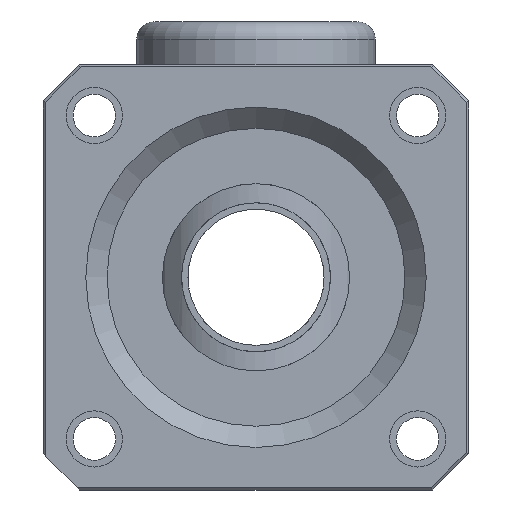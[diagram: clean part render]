
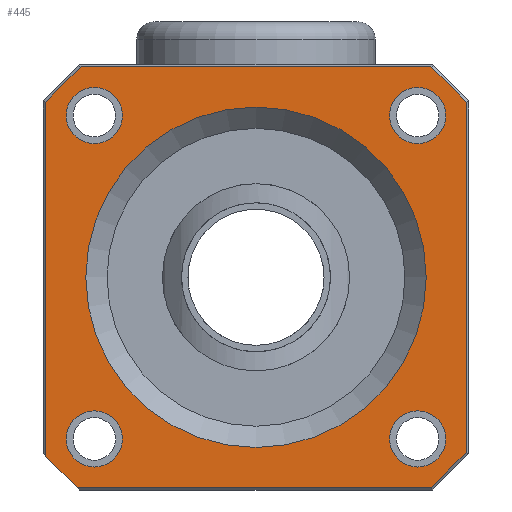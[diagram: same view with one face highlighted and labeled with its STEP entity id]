
A CAD part, front view. The second image highlights one B-rep face of the part: STEP entity #445.
In plain terms, the highlighted planar face has unit normal (0, -1, 0).
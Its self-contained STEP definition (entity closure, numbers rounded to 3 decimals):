
#445=ADVANCED_FACE('',(#742,#743,#744,#745,#746,#747),#748,.F.);
#742=FACE_OUTER_BOUND('',#1094,.T.);
#743=FACE_BOUND('',#1095,.T.);
#744=FACE_BOUND('',#1096,.T.);
#745=FACE_BOUND('',#1097,.T.);
#746=FACE_BOUND('',#1098,.T.);
#747=FACE_BOUND('',#1099,.T.);
#748=PLANE('',#1100);
#1094=EDGE_LOOP('',(#1677,#1678,#1679,#1680,#1681,#1682,#1683,#1684));
#1095=EDGE_LOOP('',(#1685));
#1096=EDGE_LOOP('',(#1686));
#1097=EDGE_LOOP('',(#1687));
#1098=EDGE_LOOP('',(#1688));
#1099=EDGE_LOOP('',(#1689));
#1100=AXIS2_PLACEMENT_3D('',#1690,#1691,#1692);
#1677=ORIENTED_EDGE('',*,*,#2123,.T.);
#1678=ORIENTED_EDGE('',*,*,#2117,.T.);
#1679=ORIENTED_EDGE('',*,*,#2171,.F.);
#1680=ORIENTED_EDGE('',*,*,#2036,.T.);
#1681=ORIENTED_EDGE('',*,*,#2041,.T.);
#1682=ORIENTED_EDGE('',*,*,#2045,.T.);
#1683=ORIENTED_EDGE('',*,*,#2049,.T.);
#1684=ORIENTED_EDGE('',*,*,#2191,.T.);
#1685=ORIENTED_EDGE('',*,*,#2152,.T.);
#1686=ORIENTED_EDGE('',*,*,#2188,.T.);
#1687=ORIENTED_EDGE('',*,*,#2192,.F.);
#1688=ORIENTED_EDGE('',*,*,#2193,.F.);
#1689=ORIENTED_EDGE('',*,*,#2194,.T.);
#1690=CARTESIAN_POINT('',(0.0,0.0,0.0));
#1691=DIRECTION('',(-0.0,1.0,0.0));
#1692=DIRECTION('',(1.0,0.0,0.0));
#2036=EDGE_CURVE('',#2336,#2334,#2337,.T.);
#2041=EDGE_CURVE('',#2334,#2343,#2345,.T.);
#2045=EDGE_CURVE('',#2343,#2349,#2351,.T.);
#2049=EDGE_CURVE('',#2349,#2354,#2357,.T.);
#2117=EDGE_CURVE('',#2459,#2456,#2460,.T.);
#2123=EDGE_CURVE('',#2466,#2459,#2469,.T.);
#2152=EDGE_CURVE('',#2516,#2516,#2517,.T.);
#2171=EDGE_CURVE('',#2336,#2456,#2541,.T.);
#2188=EDGE_CURVE('',#2561,#2561,#2562,.T.);
#2191=EDGE_CURVE('',#2354,#2466,#2565,.T.);
#2192=EDGE_CURVE('',#2566,#2566,#2567,.T.);
#2193=EDGE_CURVE('',#2568,#2568,#2569,.T.);
#2194=EDGE_CURVE('',#2570,#2570,#2571,.T.);
#2334=VERTEX_POINT('',#2846);
#2336=VERTEX_POINT('',#2849);
#2337=LINE('',#2850,#2851);
#2343=VERTEX_POINT('',#2859);
#2345=LINE('',#2862,#2863);
#2349=VERTEX_POINT('',#2868);
#2351=LINE('',#2871,#2872);
#2354=VERTEX_POINT('',#2876);
#2357=LINE('',#2880,#2881);
#2456=VERTEX_POINT('',#3029);
#2459=VERTEX_POINT('',#3033);
#2460=LINE('',#3034,#3035);
#2466=VERTEX_POINT('',#3043);
#2469=LINE('',#3048,#3049);
#2516=VERTEX_POINT('',#3318);
#2517=CIRCLE('',#3319,20.0);
#2541=LINE('',#3354,#3355);
#2561=VERTEX_POINT('',#3382);
#2562=CIRCLE('',#3383,3.3);
#2565=LINE('',#3386,#3387);
#2566=VERTEX_POINT('',#3388);
#2567=CIRCLE('',#3389,3.3);
#2568=VERTEX_POINT('',#3390);
#2569=CIRCLE('',#3391,3.3);
#2570=VERTEX_POINT('',#3392);
#2571=CIRCLE('',#3393,3.3);
#2846=CARTESIAN_POINT('',(-20.593,0.0,24.7));
#2849=CARTESIAN_POINT('',(21.017,0.0,24.7));
#2850=CARTESIAN_POINT('',(-20.717,0.0,24.7));
#2851=VECTOR('',#3727,1.0);
#2859=CARTESIAN_POINT('',(-24.7,0.0,20.593));
#2862=CARTESIAN_POINT('',(-24.788,0.0,20.505));
#2863=VECTOR('',#3731,1.0);
#2868=CARTESIAN_POINT('',(-24.7,0.0,-20.593));
#2871=CARTESIAN_POINT('',(-24.7,0.0,-20.717));
#2872=VECTOR('',#3734,1.0);
#2876=CARTESIAN_POINT('',(-20.558,0.0,-24.735));
#2880=CARTESIAN_POINT('',(-20.77,0.0,-24.522));
#2881=VECTOR('',#3737,1.0);
#3029=CARTESIAN_POINT('',(24.7,0.0,21.017));
#3033=CARTESIAN_POINT('',(24.7,0.0,-20.593));
#3034=CARTESIAN_POINT('',(24.7,0.0,20.717));
#3035=VECTOR('',#3788,1.0);
#3043=CARTESIAN_POINT('',(20.558,0.0,-24.735));
#3048=CARTESIAN_POINT('',(24.788,0.0,-20.505));
#3049=VECTOR('',#3793,1.0);
#3318=CARTESIAN_POINT('',(0.0,0.0,20.0));
#3319=AXIS2_PLACEMENT_3D('',#3843,#3844,#3845);
#3354=CARTESIAN_POINT('',(22.859,0.0,22.859));
#3355=VECTOR('',#3863,1.0);
#3382=CARTESIAN_POINT('',(-15.7,0.0,19.0));
#3383=AXIS2_PLACEMENT_3D('',#3880,#3881,#3882);
#3386=CARTESIAN_POINT('',(21.15,0.0,-24.735));
#3387=VECTOR('',#3883,1.0);
#3388=CARTESIAN_POINT('',(-15.7,0.0,-19.0));
#3389=AXIS2_PLACEMENT_3D('',#3884,#3885,#3886);
#3390=CARTESIAN_POINT('',(15.7,0.0,19.0));
#3391=AXIS2_PLACEMENT_3D('',#3887,#3888,#3889);
#3392=CARTESIAN_POINT('',(15.7,0.0,-19.0));
#3393=AXIS2_PLACEMENT_3D('',#3890,#3891,#3892);
#3727=DIRECTION('',(-1.0,0.0,0.0));
#3731=DIRECTION('',(-0.707,0.0,-0.707));
#3734=DIRECTION('',(0.0,0.0,-1.0));
#3737=DIRECTION('',(0.707,0.0,-0.707));
#3788=DIRECTION('',(0.0,0.0,1.0));
#3793=DIRECTION('',(0.707,0.0,0.707));
#3843=CARTESIAN_POINT('',(0.0,0.0,0.0));
#3844=DIRECTION('',(0.0,1.0,0.0));
#3845=DIRECTION('',(0.0,0.0,1.0));
#3863=DIRECTION('',(0.707,0.0,-0.707));
#3880=CARTESIAN_POINT('',(-19.0,0.0,19.0));
#3881=DIRECTION('',(-0.0,1.0,0.0));
#3882=DIRECTION('',(1.0,0.0,0.0));
#3883=DIRECTION('',(1.0,0.0,0.0));
#3884=CARTESIAN_POINT('',(-19.0,0.0,-19.0));
#3885=DIRECTION('',(0.0,-1.0,0.0));
#3886=DIRECTION('',(1.0,0.0,0.0));
#3887=CARTESIAN_POINT('',(19.0,0.0,19.0));
#3888=DIRECTION('',(0.0,-1.0,0.0));
#3889=DIRECTION('',(-1.0,0.0,0.0));
#3890=CARTESIAN_POINT('',(19.0,0.0,-19.0));
#3891=DIRECTION('',(0.0,1.0,0.0));
#3892=DIRECTION('',(-1.0,0.0,0.0));
